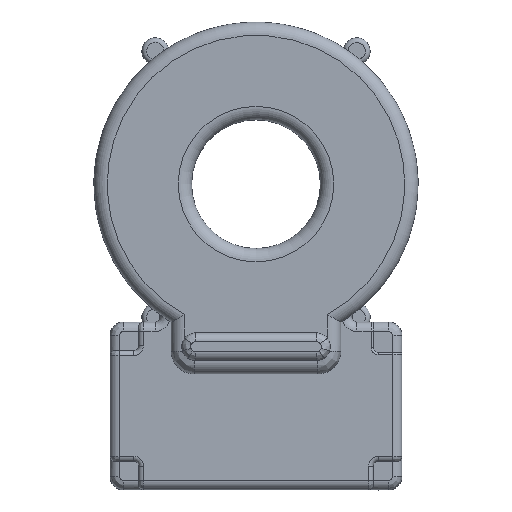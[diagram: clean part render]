
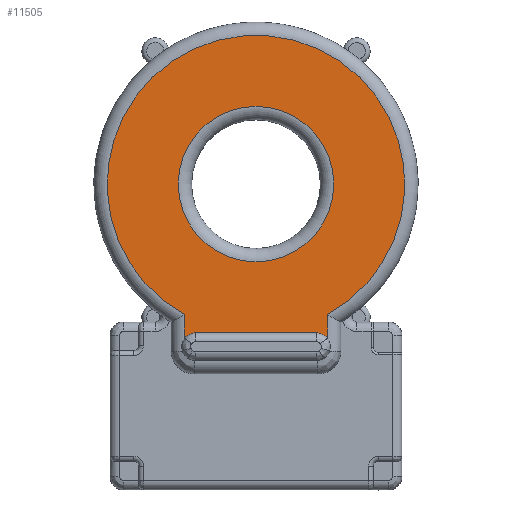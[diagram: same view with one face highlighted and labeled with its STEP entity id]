
A CAD part, top view. The second image highlights one B-rep face of the part: STEP entity #11505.
In plain terms, the highlighted planar face has unit normal (0, 0, 1).
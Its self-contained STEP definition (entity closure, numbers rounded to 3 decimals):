
#1048 = CARTESIAN_POINT ( 'NONE',  ( 7.5, -16.167, 0.9 ) ) ;
#1054 = DIRECTION ( 'NONE',  ( 0., 0., 1. ) ) ;
#1624 = EDGE_LOOP ( 'NONE', ( #19546, #22394, #46650, #30420, #12433, #16403 ) ) ;
#4534 = FACE_BOUND ( 'NONE', #14562, .T. ) ;
#4588 = DIRECTION ( 'NONE',  ( 0., 0., -1. ) ) ;
#4825 = VERTEX_POINT ( 'NONE', #38482 ) ;
#5858 = VERTEX_POINT ( 'NONE', #31140 ) ;
#5876 = ORIENTED_EDGE ( 'NONE', *, *, #49111, .T. ) ;
#5948 = CARTESIAN_POINT ( 'NONE',  ( 7.5, -7.242, 0.9 ) ) ;
#8995 = LINE ( 'NONE', #5948, #30724 ) ;
#9180 = VECTOR ( 'NONE', #51241, 1000. ) ;
#9359 = VERTEX_POINT ( 'NONE', #12475 ) ;
#10321 = DIRECTION ( 'NONE',  ( 0., -1., 0. ) ) ;
#11188 = LINE ( 'NONE', #53352, #21348 ) ;
#11215 = DIRECTION ( 'NONE',  ( 0., 0., -1. ) ) ;
#11505 = ADVANCED_FACE ( 'NONE', ( #14753, #4534 ), #35599, .T. ) ;
#12433 = ORIENTED_EDGE ( 'NONE', *, *, #21810, .T. ) ;
#12475 = CARTESIAN_POINT ( 'NONE',  ( -7.5, -13.679, 0.9 ) ) ;
#13000 = CIRCLE ( 'NONE', #24472, 8.15 ) ;
#14273 = EDGE_CURVE ( 'NONE', #48408, #46411, #11188, .T. ) ;
#14562 = EDGE_LOOP ( 'NONE', ( #5876 ) ) ;
#14753 = FACE_OUTER_BOUND ( 'NONE', #1624, .T. ) ;
#14811 = CARTESIAN_POINT ( 'NONE',  ( -6.35, -15.6, 0.9 ) ) ;
#16403 = ORIENTED_EDGE ( 'NONE', *, *, #38701, .F. ) ;
#16901 = CARTESIAN_POINT ( 'NONE',  ( -6.35, -17.05, 0.9 ) ) ;
#17551 = CARTESIAN_POINT ( 'NONE',  ( 0., 8.15, 0.9 ) ) ;
#18238 = EDGE_CURVE ( 'NONE', #9359, #5858, #49086, .T. ) ;
#19546 = ORIENTED_EDGE ( 'NONE', *, *, #18238, .F. ) ;
#20456 = CIRCLE ( 'NONE', #39291, 1.45 ) ;
#21228 = DIRECTION ( 'NONE',  ( -1., 0., 0. ) ) ;
#21348 = VECTOR ( 'NONE', #52972, 1000. ) ;
#21699 = DIRECTION ( 'NONE',  ( 0., 0., -1. ) ) ;
#21810 = EDGE_CURVE ( 'NONE', #46411, #47299, #20456, .T. ) ;
#22394 = ORIENTED_EDGE ( 'NONE', *, *, #47662, .T. ) ;
#24472 = AXIS2_PLACEMENT_3D ( 'NONE', #47680, #21699, #51988 ) ;
#27078 = CARTESIAN_POINT ( 'NONE',  ( 0., 0., 0.9 ) ) ;
#30420 = ORIENTED_EDGE ( 'NONE', *, *, #14273, .T. ) ;
#30613 = CARTESIAN_POINT ( 'NONE',  ( 0., 0., 0.9 ) ) ;
#30724 = VECTOR ( 'NONE', #10321, 1000. ) ;
#31140 = CARTESIAN_POINT ( 'NONE',  ( 7.5, -13.679, 0.9 ) ) ;
#31426 = DIRECTION ( 'NONE',  ( 1., 0., 0. ) ) ;
#34948 = DIRECTION ( 'NONE',  ( -1., 0., 0. ) ) ;
#35599 = PLANE ( 'NONE',  #45619 ) ;
#36171 = VERTEX_POINT ( 'NONE', #17551 ) ;
#36689 = CIRCLE ( 'NONE', #39246, 1.45 ) ;
#37218 = CARTESIAN_POINT ( 'NONE',  ( 6.35, -17.05, 0.9 ) ) ;
#38242 = CARTESIAN_POINT ( 'NONE',  ( -7.5, 0., 0.9 ) ) ;
#38482 = CARTESIAN_POINT ( 'NONE',  ( -7.5, -16.167, 0.9 ) ) ;
#38701 = EDGE_CURVE ( 'NONE', #5858, #47299, #8995, .T. ) ;
#39246 = AXIS2_PLACEMENT_3D ( 'NONE', #16901, #47199, #21228 ) ;
#39291 = AXIS2_PLACEMENT_3D ( 'NONE', #37218, #11215, #41546 ) ;
#41546 = DIRECTION ( 'NONE',  ( 0., 1., 0. ) ) ;
#43475 = EDGE_CURVE ( 'NONE', #4825, #48408, #36689, .T. ) ;
#45619 = AXIS2_PLACEMENT_3D ( 'NONE', #27078, #1054, #31426 ) ;
#46171 = CARTESIAN_POINT ( 'NONE',  ( 6.35, -15.6, 0.9 ) ) ;
#46411 = VERTEX_POINT ( 'NONE', #46171 ) ;
#46650 = ORIENTED_EDGE ( 'NONE', *, *, #43475, .T. ) ;
#47199 = DIRECTION ( 'NONE',  ( 0., 0., -1. ) ) ;
#47299 = VERTEX_POINT ( 'NONE', #1048 ) ;
#47662 = EDGE_CURVE ( 'NONE', #9359, #4825, #55289, .T. ) ;
#47680 = CARTESIAN_POINT ( 'NONE',  ( 0., 0., 0.9 ) ) ;
#48408 = VERTEX_POINT ( 'NONE', #14811 ) ;
#49086 = CIRCLE ( 'NONE', #51197, 15.6 ) ;
#49111 = EDGE_CURVE ( 'NONE', #36171, #36171, #13000, .T. ) ;
#51197 = AXIS2_PLACEMENT_3D ( 'NONE', #30613, #4588, #34948 ) ;
#51241 = DIRECTION ( 'NONE',  ( 0., -1., 0. ) ) ;
#51988 = DIRECTION ( 'NONE',  ( 0., 1., 0. ) ) ;
#52972 = DIRECTION ( 'NONE',  ( 1., 0., 0. ) ) ;
#53352 = CARTESIAN_POINT ( 'NONE',  ( 0., -15.6, 0.9 ) ) ;
#55289 = LINE ( 'NONE', #38242, #9180 ) ;
